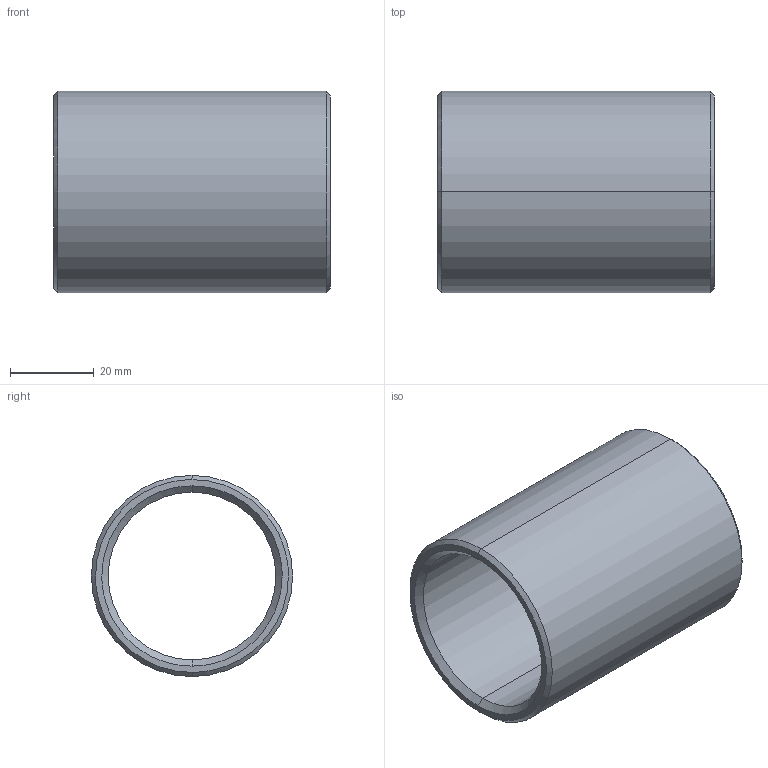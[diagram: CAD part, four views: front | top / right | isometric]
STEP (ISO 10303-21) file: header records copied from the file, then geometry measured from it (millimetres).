
FILE_DESCRIPTION(('CATIA V5 STEP Exchange'),'2;1');
FILE_NAME('C:\Users\Utente\Desktop\IO LAVORO\3D X SITO CF\X SITO\PLASTICA\352\352-40X66.stp','2021-04-14T14:54:11+00:00',('none'),('none'),'CATIA Version 5 Release 20 GA (IN-10)','CATIA V5 STEP AP203','none');
FILE_SCHEMA(('CONFIG_CONTROL_DESIGN'));
Length unit declared in the file: millimetre
Products named in the file (1): 352-40X66
Bounding box: 66 x 48 x 48 mm (x, y, z)
Volume: 36171.9 mm3; surface area: 19012 mm2
Topology: 1 solids, 1 shells, 14 faces, 44 edges, 32 vertices
Faces by surface type: cone 6, cylinder 4, plane 2, torus 2
Entity records: 634 total; most frequent: CARTESIAN_POINT 203, ORIENTED_EDGE 88, DIRECTION 64, EDGE_CURVE 44, AXIS2_PLACEMENT_3D 41, VERTEX_POINT 32, CIRCLE 26, EDGE_LOOP 16
